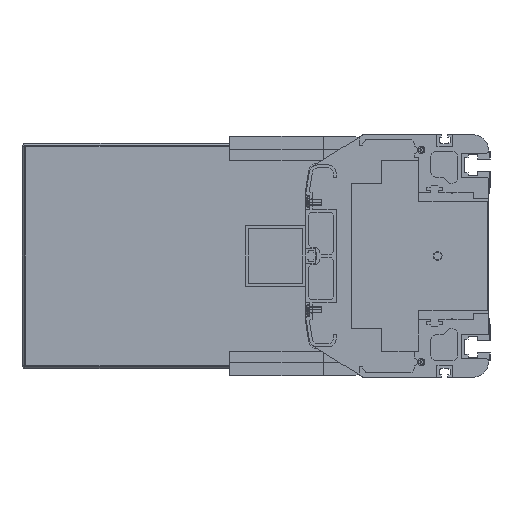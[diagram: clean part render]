
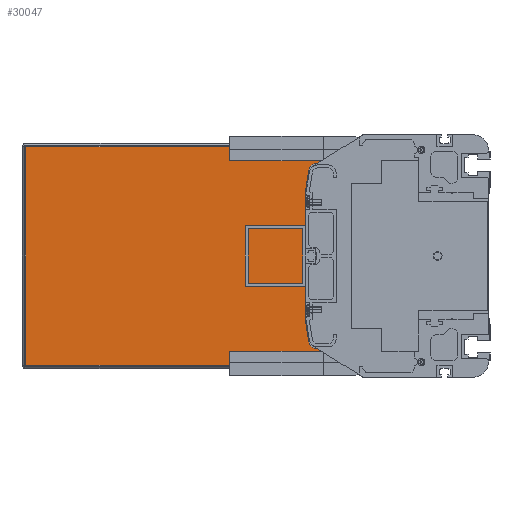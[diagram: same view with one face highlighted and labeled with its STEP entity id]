
A CAD part, left-side view. The second image highlights one B-rep face of the part: STEP entity #30047.
In plain terms, the highlighted planar face has unit normal (-1, 0, 0).
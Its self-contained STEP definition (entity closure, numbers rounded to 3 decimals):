
#4070=DIRECTION('',(0.,0.,-1.));
#4071=VECTOR('',#4070,11.);
#4072=CARTESIAN_POINT('',(3986.5,86.,-61.));
#4073=LINE('',#4072,#4071);
#4079=DIRECTION('',(0.,0.,-1.));
#4080=VECTOR('',#4079,11.);
#4081=CARTESIAN_POINT('',(3986.5,86.,72.));
#4082=LINE('',#4081,#4080);
#9646=DIRECTION('',(0.,1.,0.));
#9647=VECTOR('',#9646,28.728);
#9648=CARTESIAN_POINT('',(3986.5,86.,-61.));
#9649=LINE('',#9648,#9647);
#9654=CARTESIAN_POINT('',(3986.5,114.728,56.));
#9655=DIRECTION('',(-1.,0.,0.));
#9656=DIRECTION('',(0.,0.,1.));
#9657=AXIS2_PLACEMENT_3D('',#9654,#9655,#9656);
#9659=DIRECTION('',(0.,0.156,-0.988));
#9660=VECTOR('',#9659,14.963);
#9661=CARTESIAN_POINT('',(3986.5,119.666,56.78));
#9662=LINE('',#9661,#9660);
#9663=DIRECTION('',(0.,-0.156,-0.988));
#9664=VECTOR('',#9663,14.963);
#9665=CARTESIAN_POINT('',(3986.5,122.,-42.));
#9666=LINE('',#9665,#9664);
#9667=CARTESIAN_POINT('',(3986.5,114.728,-56.));
#9668=DIRECTION('',(-1.,0.,0.));
#9669=DIRECTION('',(0.,0.988,-0.156));
#9670=AXIS2_PLACEMENT_3D('',#9667,#9668,#9669);
#9676=DIRECTION('',(0.,-1.,0.));
#9677=VECTOR('',#9676,220.5);
#9678=CARTESIAN_POINT('',(3986.5,306.5,-72.));
#9679=LINE('',#9678,#9677);
#12173=DIRECTION('',(0.,1.,0.));
#12174=VECTOR('',#12173,220.5);
#12175=CARTESIAN_POINT('',(3986.5,86.,72.));
#12176=LINE('',#12175,#12174);
#12200=DIRECTION('',(0.,0.,-1.));
#12201=VECTOR('',#12200,144.);
#12202=CARTESIAN_POINT('',(3986.5,306.5,72.));
#12203=LINE('',#12202,#12201);
#12931=DIRECTION('',(0.,-1.,0.));
#12932=VECTOR('',#12931,28.728);
#12933=CARTESIAN_POINT('',(3986.5,114.728,61.));
#12934=LINE('',#12933,#12932);
#12947=DIRECTION('',(0.,0.,1.));
#12948=VECTOR('',#12947,84.);
#12949=CARTESIAN_POINT('',(3986.5,122.,-42.));
#12950=LINE('',#12949,#12948);
#18468=CARTESIAN_POINT('',(3986.5,306.5,-72.));
#18469=CARTESIAN_POINT('',(3986.5,86.,-72.));
#18470=VERTEX_POINT('',#18468);
#18471=VERTEX_POINT('',#18469);
#18472=CARTESIAN_POINT('',(3986.5,86.,-61.));
#18473=VERTEX_POINT('',#18472);
#18474=CARTESIAN_POINT('',(3986.5,114.728,-61.));
#18475=VERTEX_POINT('',#18474);
#18476=CARTESIAN_POINT('',(3986.5,119.666,-56.78));
#18477=VERTEX_POINT('',#18476);
#18478=CARTESIAN_POINT('',(3986.5,122.,-42.));
#18479=VERTEX_POINT('',#18478);
#18480=CARTESIAN_POINT('',(3986.5,122.,42.));
#18481=VERTEX_POINT('',#18480);
#18482=CARTESIAN_POINT('',(3986.5,119.666,56.78));
#18483=VERTEX_POINT('',#18482);
#18484=CARTESIAN_POINT('',(3986.5,114.728,61.));
#18485=VERTEX_POINT('',#18484);
#18486=CARTESIAN_POINT('',(3986.5,86.,61.));
#18487=VERTEX_POINT('',#18486);
#18488=CARTESIAN_POINT('',(3986.5,86.,72.));
#18489=VERTEX_POINT('',#18488);
#18490=CARTESIAN_POINT('',(3986.5,306.5,72.));
#18491=VERTEX_POINT('',#18490);
#30019=CARTESIAN_POINT('',(3986.5,196.25,0.));
#30020=DIRECTION('',(1.,0.,0.));
#30021=DIRECTION('',(0.,0.,-1.));
#30022=AXIS2_PLACEMENT_3D('',#30019,#30020,#30021);
#30023=PLANE('',#30022);
#30025=ORIENTED_EDGE('',*,*,#30024,.F.);
#30027=ORIENTED_EDGE('',*,*,#30026,.F.);
#30029=ORIENTED_EDGE('',*,*,#30028,.F.);
#30030=ORIENTED_EDGE('',*,*,#25219,.T.);
#30032=ORIENTED_EDGE('',*,*,#30031,.F.);
#30034=ORIENTED_EDGE('',*,*,#30033,.T.);
#30036=ORIENTED_EDGE('',*,*,#30035,.T.);
#30038=ORIENTED_EDGE('',*,*,#30037,.F.);
#30040=ORIENTED_EDGE('',*,*,#30039,.T.);
#30042=ORIENTED_EDGE('',*,*,#30041,.T.);
#30043=ORIENTED_EDGE('',*,*,#30011,.F.);
#30044=ORIENTED_EDGE('',*,*,#25188,.T.);
#30045=EDGE_LOOP('',(#30025,#30027,#30029,#30030,#30032,#30034,#30036,#30038,
#30040,#30042,#30043,#30044));
#30046=FACE_OUTER_BOUND('',#30045,.F.);
#30047=ADVANCED_FACE('',(#30046),#30023,.F.);
#9658=CIRCLE('',#9657,5.);
#9671=CIRCLE('',#9670,5.);
#25188=EDGE_CURVE('',#18473,#18471,#4073,.T.);
#25219=EDGE_CURVE('',#18489,#18487,#4082,.T.);
#30011=EDGE_CURVE('',#18473,#18475,#9649,.T.);
#30024=EDGE_CURVE('',#18470,#18471,#9679,.T.);
#30026=EDGE_CURVE('',#18491,#18470,#12203,.T.);
#30028=EDGE_CURVE('',#18489,#18491,#12176,.T.);
#30031=EDGE_CURVE('',#18485,#18487,#12934,.T.);
#30033=EDGE_CURVE('',#18485,#18483,#9658,.T.);
#30035=EDGE_CURVE('',#18483,#18481,#9662,.T.);
#30037=EDGE_CURVE('',#18479,#18481,#12950,.T.);
#30039=EDGE_CURVE('',#18479,#18477,#9666,.T.);
#30041=EDGE_CURVE('',#18477,#18475,#9671,.T.);
